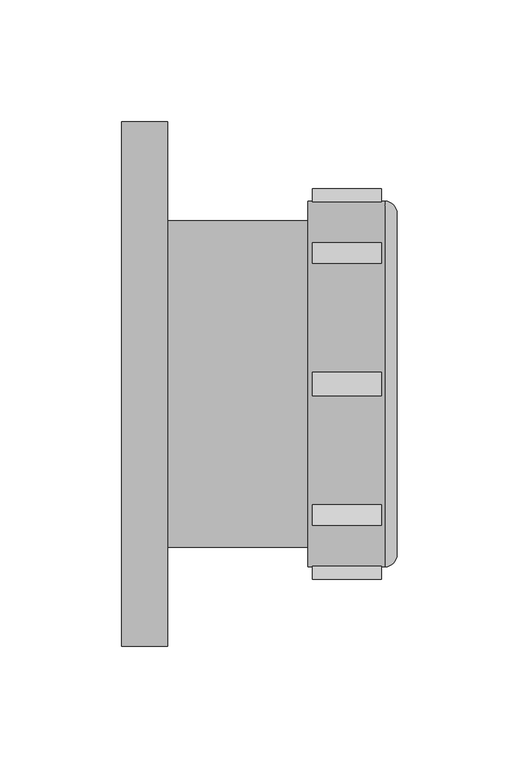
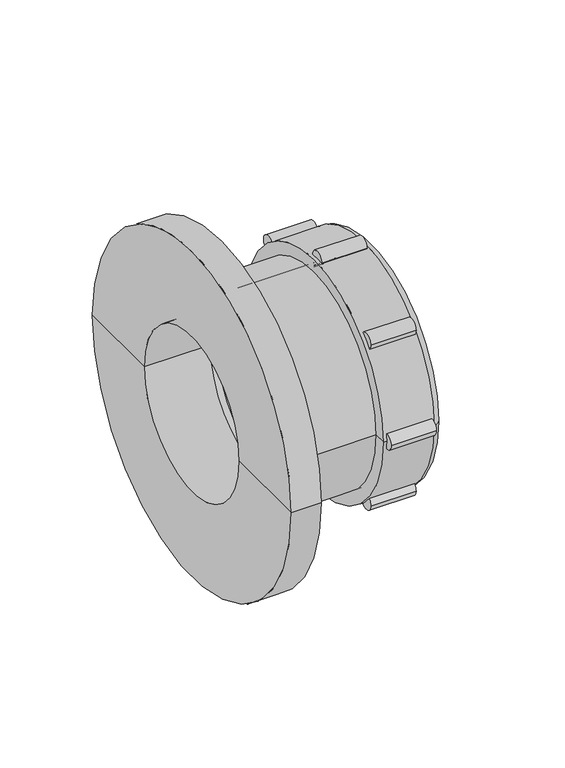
"""IFC4 building model written with IfcOpenShell, lengths in millimetres: pipe fitting geometry, Durapipe_PipeFitting_VulcatheneMechanical_Flange_(L364-L40) : W104 102mm."""

import ifcopenshell
import ifcopenshell.guid

model = None  # the IFC model being written
_history = None  # IfcOwnerHistory: only IFC2X3 demands one
_inside = {}  # id of a spatial element -> (the spatial element, [elements in it])
_under = {}  # id of a project, library or spatial element -> (it, [spatial elements below it])
_declared = {}  # id of a project -> (the project, [libraries it declares])
_typed = {}  # id of a type object -> (the type object, [elements of that type])
_made_of = {}  # id of a material, layer set ... -> (it, [elements and type objects made of it])


def new_model(schema):
    """Start an empty IFC model of exactly this schema.

    Asked for "IFC4X3", IfcOpenShell would pick the latest addendum, in which some entities
    have other attributes; the version numbers below select the first issue.
    IFC2X3 requires an IfcOwnerHistory on every rooted entity: one is made here for all.
    """
    global model, _history
    if schema == "IFC4X3":
        model = ifcopenshell.file(schema_version=(4, 3, 0, 0))
    else:
        model = ifcopenshell.file(schema=schema)
    _inside.clear()
    _under.clear()
    _declared.clear()
    _typed.clear()
    _made_of.clear()
    _history = None
    if model.schema == "IFC2X3":
        org = make("IfcOrganization", Name="unknown")
        user = make(
            "IfcPersonAndOrganization",
            ThePerson=make("IfcPerson", FamilyName="unknown"),
            TheOrganization=org,
        )
        app = make(
            "IfcApplication",
            ApplicationDeveloper=org,
            Version="unknown",
            ApplicationFullName="unknown",
            ApplicationIdentifier="unknown",
        )
        _history = make(
            "IfcOwnerHistory",
            OwningUser=user,
            OwningApplication=app,
            ChangeAction="ADDED",
            CreationDate=0,
        )
    return model


def make(cls, **values):
    """One entity of the class cls with the attributes given. An attribute that is None is left unset."""
    return model.create_entity(
        cls, **{name: value for name, value in values.items() if value is not None}
    )


def rooted(cls, **values):
    """An entity with a GlobalId (a new one), such as an element, a storey or a relation."""
    return make(cls, GlobalId=ifcopenshell.guid.new(), OwnerHistory=_history, **values)


def si_unit(unit_type, name, prefix=None):
    """IfcSIUnit, for example si_unit("LENGTHUNIT", "METRE", prefix="MILLI")."""
    return make("IfcSIUnit", UnitType=unit_type, Prefix=prefix, Name=name)


def assignment(units):
    """IfcUnitAssignment: the units of a project."""
    return None if units is None else make("IfcUnitAssignment", Units=units)


def point(xyz):
    """IfcCartesianPoint."""
    return None if xyz is None else make("IfcCartesianPoint", Coordinates=xyz)


def direction(xyz):
    """IfcDirection."""
    return None if xyz is None else make("IfcDirection", DirectionRatios=xyz)


def frame(location, z_axis=None, x_axis=None):
    """IfcAxis2Placement3D, a coordinate frame: its origin and axes. An axis left out is left unset."""
    return make(
        "IfcAxis2Placement3D",
        Location=point(location),
        Axis=direction(z_axis),
        RefDirection=direction(x_axis),
    )


def frame_2d(location, x_axis=None):
    """IfcAxis2Placement2D, a coordinate frame in the plane: its origin and x axis."""
    return make(
        "IfcAxis2Placement2D", Location=point(location), RefDirection=direction(x_axis)
    )


def origin():
    """The frame at (0, 0, 0) with its axes left unset."""
    return frame((0.0, 0.0, 0.0))


def place(relative_to, where):
    """IfcLocalPlacement: puts the frame where relative to a parent placement (None: the world)."""
    return make(
        "IfcLocalPlacement", PlacementRelTo=relative_to, RelativePlacement=where
    )


def context(
    kind, dimensions, precision=None, world=None, true_north=None, identifier=None
):
    """IfcGeometricRepresentationContext, for example the 3D "Model" context."""
    return make(
        "IfcGeometricRepresentationContext",
        ContextIdentifier=identifier,
        ContextType=kind,
        CoordinateSpaceDimension=dimensions,
        Precision=precision,
        WorldCoordinateSystem=world,
        TrueNorth=true_north,
    )


def project(units=None, contexts=None):
    """IfcProject with its units and contexts."""
    return rooted(
        "IfcProject",
        Name="project",
        RepresentationContexts=contexts,
        UnitsInContext=assignment(units),
    )


def spatial(cls, under=None, at=None, **own):
    """A site, building, storey or space (cls), placed at a placement, below another one or the project."""
    s = rooted(cls, ObjectPlacement=at, **own)
    if under is not None:
        _under.setdefault(under.id(), (under, []))[1].append(s)
    return s


def polyline(points):
    """IfcPolyline through the points."""
    return make("IfcPolyline", Points=[point(p) for p in points])


def circle_curve(where, radius):
    """IfcCircle in the frame where."""
    return make("IfcCircle", Position=where, Radius=radius)


def ellipse_curve(where, semi_axis1, semi_axis2):
    """IfcEllipse in the frame where."""
    return make(
        "IfcEllipse", Position=where, SemiAxis1=semi_axis1, SemiAxis2=semi_axis2
    )


def trimmed(basis, trim1, trim2, sense, master):
    """IfcTrimmedCurve: the piece of a basis curve between two trims."""
    return make(
        "IfcTrimmedCurve",
        BasisCurve=basis,
        Trim1=trim1,
        Trim2=trim2,
        SenseAgreement=sense,
        MasterRepresentation=master,
    )


def segment(curve, same_sense, transition):
    """IfcCompositeCurveSegment."""
    return make(
        "IfcCompositeCurveSegment",
        Transition=transition,
        SameSense=same_sense,
        ParentCurve=curve,
    )


def composite_curve(segments, self_intersect=None):
    """IfcCompositeCurve: segments joined end to end."""
    return make("IfcCompositeCurve", Segments=segments, SelfIntersect=self_intersect)


def outline(outer, holes=None, kind="AREA"):
    """IfcArbitraryClosedProfileDef: a profile drawn as a closed curve; with holes, ...WithVoids."""
    if holes is None:
        return make("IfcArbitraryClosedProfileDef", ProfileType=kind, OuterCurve=outer)
    return make(
        "IfcArbitraryProfileDefWithVoids",
        ProfileType=kind,
        OuterCurve=outer,
        InnerCurves=holes,
    )


def extrude(swept, where, along, depth):
    """IfcExtrudedAreaSolid: the profile swept, set in the frame where, extruded along a direction by depth."""
    return make(
        "IfcExtrudedAreaSolid",
        SweptArea=swept,
        Position=where,
        ExtrudedDirection=direction(along),
        Depth=depth,
    )


def shape(context_of_items, identifier, shape_type, items):
    """IfcShapeRepresentation: the items that make up one representation, for example the "Body"."""
    return make(
        "IfcShapeRepresentation",
        ContextOfItems=context_of_items,
        RepresentationIdentifier=identifier,
        RepresentationType=shape_type,
        Items=items,
    )


def source(mapping_origin, context_of_items, identifier, shape_type, items):
    """IfcRepresentationMap: a shape defined once, which mapped items show again and again."""
    return make(
        "IfcRepresentationMap",
        MappingOrigin=mapping_origin,
        MappedRepresentation=shape(context_of_items, identifier, shape_type, items),
    )


def transform(
    local_origin,
    x_axis=None,
    y_axis=None,
    z_axis=None,
    scale=None,
    scale2=None,
    scale3=None,
    uniform=True,
):
    """IfcCartesianTransformationOperator3D, or its non-uniform kind. x_axis, y_axis, z_axis: its Axis1, 2, 3."""
    if uniform:
        return make(
            "IfcCartesianTransformationOperator3D",
            Axis1=direction(x_axis),
            Axis2=direction(y_axis),
            LocalOrigin=point(local_origin),
            Scale=scale,
            Axis3=direction(z_axis),
        )
    return make(
        "IfcCartesianTransformationOperator3DnonUniform",
        Axis1=direction(x_axis),
        Axis2=direction(y_axis),
        LocalOrigin=point(local_origin),
        Scale=scale,
        Axis3=direction(z_axis),
        Scale2=scale2,
        Scale3=scale3,
    )


def mapped(mapping_source, mapping_target):
    """IfcMappedItem: shows the shape of a source again, moved by a transform."""
    return make(
        "IfcMappedItem", MappingSource=mapping_source, MappingTarget=mapping_target
    )


def made_of(thing, what):
    """Note that an element or type object is made of a material, layer set ...; save() writes the relation."""
    if what is not None:
        _made_of.setdefault(what.id(), (what, []))[1].append(thing)
    return thing


def element(
    cls,
    number,
    at=None,
    inside=None,
    cuts=None,
    type_object=None,
    material=None,
    context=None,
    identifier="Body",
    shape_type=None,
    held_by="IfcProductDefinitionShape",
    body=None,
    shapes=None,
    **own,
):
    """One element of the class cls, such as IfcWall. Its Tag is "e" and its number.

    at: its placement. inside: the storey or other place that contains it. cuts: it is an
    opening in that element (IfcRelVoidsElement). A single representation is given by context,
    identifier, shape_type and body (its items); several are given by shapes. held_by: the class
    of the entity that holds the representations. save() writes the other relations.
    """
    e = rooted(cls, Tag="e%d" % number, ObjectPlacement=at, **own)
    if body is not None:
        shapes = [shape(context, identifier, shape_type, body)]
    if shapes is not None:
        e.Representation = make(held_by, Representations=shapes)
    if inside is not None:
        _inside.setdefault(inside.id(), (inside, []))[1].append(e)
    if cuts is not None:
        rooted(
            "IfcRelVoidsElement", RelatingBuildingElement=cuts, RelatedOpeningElement=e
        )
    if type_object is not None:
        _typed.setdefault(type_object.id(), (type_object, []))[1].append(e)
    return made_of(e, material)


def aggregate(whole, parts):
    """IfcRelAggregates: a whole, such as a stair, and the parts it consists of."""
    return rooted("IfcRelAggregates", RelatingObject=whole, RelatedObjects=parts)


def save(model, path):
    """Write the relations noted so far, then the file.

    IfcRelAggregates (storeys below a building ...), IfcRelContainedInSpatialStructure (elements
    in a storey), IfcRelDefinesByType, IfcRelAssociatesMaterial and IfcRelDeclares: one each for
    every whole, place, type object, material and project.
    """
    for whole, parts in _under.values():
        aggregate(whole, parts)
    for where, things in _inside.values():
        rooted(
            "IfcRelContainedInSpatialStructure",
            RelatedElements=things,
            RelatingStructure=where,
        )
    for kind, things in _typed.values():
        rooted("IfcRelDefinesByType", RelatedObjects=things, RelatingType=kind)
    for what, things in _made_of.values():
        rooted("IfcRelAssociatesMaterial", RelatedObjects=things, RelatingMaterial=what)
    for by, libraries in _declared.values():
        rooted("IfcRelDeclares", RelatingContext=by, RelatedDefinitions=libraries)
    model.write(path)


def plane_surface(at):
    """IfcPlane: the flat surface through the origin of the frame at, square to its z axis."""
    return make("IfcPlane", Position=at)


def cylinder_surface(at, radius):
    """IfcCylindricalSurface: all points at the distance radius from the z axis of the frame at."""
    return make("IfcCylindricalSurface", Position=at, Radius=radius)


def revolved_surface(curve, axis_point, axis_direction):
    """IfcSurfaceOfRevolution: the curve turned about the line through axis_point along axis_direction."""
    return make(
        "IfcSurfaceOfRevolution",
        SweptCurve=make("IfcArbitraryOpenProfileDef", ProfileType="CURVE", Curve=curve),
        AxisPosition=make("IfcAxis1Placement", Location=point(axis_point), Axis=direction(axis_direction)),
    )


def advanced_brep(points, edges, surfaces, faces):
    """IfcAdvancedBrep: a solid bounded by faces that lie on surfaces and meet in shared edges.

    An edge is (start, end): straight between two places in points (the first is 0);
    or (start, end, curve); or (start, end, curve, False) where it runs against its curve.
    A face is (place in surfaces, loops), or (place, loops, False) where it looks against
    its surface's normal. A loop lists edges by number (the first is 1), with a minus sign
    where the edge is run from its end to its start. The first loop is the outer one.
    """
    corners = [point(p) for p in points]
    vertices = [make("IfcVertexPoint", VertexGeometry=c) for c in corners]
    made = []
    for start, end, *more in edges:
        made.append(
            make(
                "IfcEdgeCurve",
                EdgeStart=vertices[start],
                EdgeEnd=vertices[end],
                EdgeGeometry=more[0] if more else make("IfcPolyline", Points=[corners[start], corners[end]]),
                SameSense=more[1] if len(more) > 1 else True,
            )
        )
    hull = []
    for where, loops, *sense in faces:
        bounds = []
        for j, loop in enumerate(loops):
            ring = [make("IfcOrientedEdge", EdgeElement=made[abs(k) - 1], Orientation=k > 0) for k in loop]
            bounds.append(
                make(
                    "IfcFaceOuterBound" if j == 0 else "IfcFaceBound",
                    Bound=make("IfcEdgeLoop", EdgeList=ring),
                    Orientation=True,
                )
            )
        hull.append(make("IfcAdvancedFace", Bounds=bounds, FaceSurface=surfaces[where], SameSense=sense[0] if sense else True))
    return make("IfcAdvancedBrep", Outer=make("IfcClosedShell", CfsFaces=hull))


def pipe_fitting_40ecb241(model_context):
    return source(origin(), model_context, "Body", "SolidModel", [
        advanced_brep(
        [(51.0, -45.3962554, -45.3962554), (51.0, 45.3962554, 45.3962554), (51.0, 39.3858477, 39.3858477), (51.0, -39.3858477, -39.3858477), (29.2, -42.0021428, -42.0021428), (29.2, 42.0021428, 42.0021428), (-7.7, -42.0021428, -42.0021428), (-7.7, 42.0021428, 42.0021428), (-7.7, -40.3757972, -40.3757972), (-7.7, 40.3757972, 40.3757972), (38.3, -40.3757972, -40.3757972), (38.3, 40.3757972, 40.3757972), (38.3, -38.890873, -38.890873), (38.3, 38.890873, 38.890873), (42.8, -39.3858477, -39.3858477), (42.8, 39.3858477, 39.3858477), (42.8, 38.890873, 38.890873), (42.8, -38.890873, -38.890873)],
        [
            (0, 1, circle_curve(frame((51.0, 0.0, 0.0), z_axis=(1.0, 0.0, 0.0), x_axis=(0.0, 0.7071067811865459, 0.7071067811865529)), 64.2)),
            (1, 2),
            (2, 3, circle_curve(frame((51.0, 0.0, 0.0), z_axis=(-1.0, 0.0, 0.0), x_axis=(0.0, 0.7071067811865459, 0.7071067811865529)), 55.7)),
            (3, 0),
            (1, 0, circle_curve(frame((51.0, 0.0, 0.0), z_axis=(1.0, 0.0, 0.0), x_axis=(0.0, 0.7071067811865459, 0.7071067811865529)), 64.2)),
            (3, 2, circle_curve(frame((51.0, 0.0, 0.0), z_axis=(-1.0, 0.0, 0.0), x_axis=(0.0, 0.7071067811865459, 0.7071067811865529)), 55.7)),
            (0, 4),
            (4, 5, circle_curve(frame((29.2, 0.0, 0.0), z_axis=(1.0, 0.0, 0.0), x_axis=(0.0, 0.7071067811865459, 0.7071067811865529)), 59.4)),
            (5, 1),
            (5, 4, circle_curve(frame((29.2, 0.0, 0.0), z_axis=(1.0, 0.0, 0.0), x_axis=(0.0, 0.7071067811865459, 0.7071067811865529)), 59.4)),
            (6, 7, circle_curve(frame((-7.7, 0.0, 0.0), z_axis=(1.0, 0.0, 0.0), x_axis=(0.0, 0.7071067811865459, 0.7071067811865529)), 59.4)),
            (7, 5),
            (4, 6),
            (7, 6, circle_curve(frame((-7.7, 0.0, 0.0), z_axis=(1.0, 0.0, 0.0), x_axis=(0.0, 0.7071067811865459, 0.7071067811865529)), 59.4)),
            (6, 8),
            (8, 9, circle_curve(frame((-7.7, 0.0, 0.0), z_axis=(1.0, 0.0, 0.0), x_axis=(0.0, 0.7071067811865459, 0.7071067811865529)), 57.1)),
            (9, 7),
            (9, 8, circle_curve(frame((-7.7, 0.0, 0.0), z_axis=(1.0, 0.0, 0.0), x_axis=(0.0, 0.7071067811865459, 0.7071067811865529)), 57.1)),
            (8, 10),
            (10, 11, circle_curve(frame((38.3, 0.0, 0.0), z_axis=(1.0, 0.0, 0.0), x_axis=(0.0, 0.7071067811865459, 0.7071067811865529)), 57.1)),
            (11, 9),
            (11, 10, circle_curve(frame((38.3, 0.0, 0.0), z_axis=(1.0, 0.0, 0.0), x_axis=(0.0, 0.7071067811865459, 0.7071067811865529)), 57.1)),
            (10, 12),
            (12, 13, circle_curve(frame((38.3, 0.0, 0.0), z_axis=(1.0, 0.0, 0.0), x_axis=(0.0, 0.7071067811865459, 0.7071067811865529)), 55.0)),
            (13, 11),
            (13, 12, circle_curve(frame((38.3, 0.0, 0.0), z_axis=(1.0, 0.0, 0.0), x_axis=(0.0, 0.7071067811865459, 0.7071067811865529)), 55.0)),
            (14, 15, circle_curve(frame((42.8, 0.0, 0.0), z_axis=(1.0, 0.0, 0.0), x_axis=(0.0, 0.7071067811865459, 0.7071067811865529)), 55.7)),
            (15, 16),
            (16, 17, circle_curve(frame((42.8, 0.0, 0.0), z_axis=(-1.0, 0.0, 0.0), x_axis=(0.0, 0.7071067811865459, 0.7071067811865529)), 55.0)),
            (17, 14),
            (15, 14, circle_curve(frame((42.8, 0.0, 0.0), z_axis=(1.0, 0.0, 0.0), x_axis=(0.0, 0.7071067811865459, 0.7071067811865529)), 55.7)),
            (17, 16, circle_curve(frame((42.8, 0.0, 0.0), z_axis=(-1.0, 0.0, 0.0), x_axis=(0.0, 0.7071067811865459, 0.7071067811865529)), 55.0)),
            (2, 15),
            (14, 3),
            (12, 17),
            (16, 13),
        ],
        [
            plane_surface(frame((51.0, 0.0, 0.0), z_axis=(1.0, 0.0, 0.0), x_axis=(0.0, 0.707106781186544, 0.707106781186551))),
            revolved_surface(polyline([(51.0, 45.3962554, 45.3962554), (29.2, 42.0021428, 42.0021428)]), (56.0, 0.0, 0.0), (-1.0000000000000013, 0.0, 0.0)),
            cylinder_surface(frame((-9.7706557, 0.0, 0.0), z_axis=(-1.0000000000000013, 0.0, 0.0), x_axis=(0.0, 0.7071067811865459, 0.7071067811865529)), 59.4),
            plane_surface(frame((-7.7, 0.0, 0.0), z_axis=(-1.0, 0.0, 0.0), x_axis=(0.0, 0.707106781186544, 0.707106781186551))),
            revolved_surface(polyline([(-7.699999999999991, 40.37579720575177, 40.37579720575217), (38.300000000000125, 40.37579720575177, 40.37579720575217)]), (-11.192991, 0.0, 0.0), (-1.0000000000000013, 0.0, 0.0)),
            plane_surface(frame((38.3, 0.0, 0.0), z_axis=(-1.0, 0.0, 0.0), x_axis=(0.0, 0.707106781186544, 0.707106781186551))),
            plane_surface(frame((42.8, 0.0, 0.0), z_axis=(1.0, 0.0, 0.0), x_axis=(0.0, 0.707106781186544, 0.707106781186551))),
            revolved_surface(polyline([(42.79999999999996, 39.38584771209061, 39.385847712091), (50.999999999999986, 39.38584771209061, 39.385847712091)]), (56.0, 0.0, 0.0), (-1.0000000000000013, 0.0, 0.0)),
            revolved_surface(polyline([(38.299999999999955, 38.89087296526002, 38.89087296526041), (42.79999999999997, 38.89087296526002, 38.89087296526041)]), (52.5661924, 0.0, 0.0), (-1.0000000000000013, 0.0, 0.0)),
        ],
        [
            (0, [[1, 2, 3, 4]]),
            (0, [[-2, 5, -4, 6]]),
            (1, [[-1, 7, 8, 9]]),
            (1, [[-5, -9, 10, -7]]),
            (2, [[11, 12, -8, 13]]),
            (2, [[-12, 14, -13, -10]]),
            (3, [[-11, 15, 16, 17]]),
            (3, [[-14, -17, 18, -15]]),
            (4, [[19, 20, 21, -16]]),
            (4, [[-19, -18, -21, 22]]),
            (5, [[-20, 23, 24, 25]]),
            (5, [[-22, -25, 26, -23]]),
            (6, [[27, 28, 29, 30]]),
            (6, [[31, -30, 32, -28]]),
            (7, [[-3, 33, -27, 34]]),
            (7, [[-6, -34, -31, -33]]),
            (8, [[35, -29, 36, -24]]),
            (8, [[-35, -26, -36, -32]]),
        ],
    ),
        advanced_brep(
        [(20.0, -75.0, 0.0), (20.0, 75.0, 0.0), (51.5, 75.0, 0.0), (51.5, -75.0, 0.0), (20.0, -66.0, 0.0), (20.0, 66.0, 0.0), (56.5, -70.0, 0.0), (56.5, 70.0, 0.0), (56.5, 57.5, 0.0), (56.5, -57.5, 0.0), (51.0, -66.0, 0.0), (51.0, 66.0, 0.0), (51.0, -57.5, 0.0), (51.0, 57.5, 0.0)],
        [
            (0, 1, circle_curve(frame((20.0, 0.0, 0.0), z_axis=(1.0, 0.0, 0.0), x_axis=(0.0, 1.0000000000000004, 0.0)), 75.0)),
            (1, 2),
            (2, 3, circle_curve(frame((51.5, 0.0, 0.0), z_axis=(-1.0, 0.0, 0.0), x_axis=(0.0, 1.0000000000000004, 0.0)), 75.0)),
            (3, 0),
            (1, 0, circle_curve(frame((20.0, 0.0, 0.0), z_axis=(1.0, 0.0, 0.0), x_axis=(0.0, 1.0000000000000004, 0.0)), 75.0)),
            (3, 2, circle_curve(frame((51.5, 0.0, 0.0), z_axis=(-1.0, 0.0, 0.0), x_axis=(0.0, 1.0000000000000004, 0.0)), 75.0)),
            (4, 5, circle_curve(frame((20.0, 0.0, 0.0), z_axis=(1.0, 0.0, 0.0), x_axis=(0.0, 1.0000000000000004, 0.0)), 66.0)),
            (5, 1),
            (0, 4),
            (5, 4, circle_curve(frame((20.0, 0.0, 0.0), z_axis=(1.0, 0.0, 0.0), x_axis=(0.0, 1.0000000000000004, 0.0)), 66.0)),
            (6, 7, circle_curve(frame((56.5, 0.0, 0.0), z_axis=(1.0, 0.0, 0.0), x_axis=(0.0, 1.0000000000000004, 0.0)), 70.0)),
            (7, 8),
            (8, 9, circle_curve(frame((56.5, 0.0, 0.0), z_axis=(-1.0, 0.0, 0.0), x_axis=(0.0, 1.0000000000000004, 0.0)), 57.5)),
            (9, 6),
            (7, 6, circle_curve(frame((56.5, 0.0, 0.0), z_axis=(1.0, 0.0, 0.0), x_axis=(0.0, 1.0000000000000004, 0.0)), 70.0)),
            (9, 8, circle_curve(frame((56.5, 0.0, 0.0), z_axis=(-1.0, 0.0, 0.0), x_axis=(0.0, 1.0000000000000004, 0.0)), 57.5)),
            (2, 7, circle_curve(frame((51.5, 70.0, 0.0), z_axis=(0.0, 0.0, -1.0000000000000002), x_axis=(1.0000000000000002, 0.0, 0.0)), 5.0)),
            (6, 3, circle_curve(frame((51.5, -70.0, 0.0), z_axis=(0.0, 0.0, -1.0000000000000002), x_axis=(1.0000000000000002, 0.0, 0.0)), 5.0)),
            (10, 11, circle_curve(frame((51.0, 0.0, 0.0), z_axis=(1.0, 0.0, 0.0), x_axis=(0.0, 1.0000000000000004, 0.0)), 66.0)),
            (11, 5),
            (4, 10),
            (11, 10, circle_curve(frame((51.0, 0.0, 0.0), z_axis=(1.0, 0.0, 0.0), x_axis=(0.0, 1.0000000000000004, 0.0)), 66.0)),
            (12, 13, circle_curve(frame((51.0, 0.0, 0.0), z_axis=(1.0, 0.0, 0.0), x_axis=(0.0, 1.0000000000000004, 0.0)), 57.5)),
            (13, 11),
            (10, 12),
            (13, 12, circle_curve(frame((51.0, 0.0, 0.0), z_axis=(1.0, 0.0, 0.0), x_axis=(0.0, 1.0000000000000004, 0.0)), 57.5)),
            (8, 13),
            (12, 9),
        ],
        [
            cylinder_surface(frame((1617.3018184, 0.0, 0.0), z_axis=(-1.0000000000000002, 0.0, 0.0), x_axis=(0.0, 1.0000000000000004, 0.0)), 75.0),
            plane_surface(frame((20.0, 0.0, 0.0), z_axis=(-1.0, 0.0, 0.0), x_axis=(0.0, 1.0, 0.0))),
            plane_surface(frame((56.5, 0.0, 0.0), z_axis=(1.0, 0.0, 0.0), x_axis=(0.0, 1.0, 0.0))),
            revolved_surface(trimmed(ellipse_curve(frame((51.5, 70.0, 0.0), z_axis=(0.0, 0.0, 1.0000000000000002), x_axis=(1.0000000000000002, 0.0, 0.0)), 5.0, 5.0), [point((56.5, 70.0, 0.0))], [point((51.5, 75.0, 0.0))], True, "CARTESIAN"), (1617.3018184, 0.0, 0.0), (-1.0000000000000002, 0.0, 0.0)),
            revolved_surface(polyline([(19.99999999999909, 66.00000000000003, 0.0), (50.99999999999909, 66.00000000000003, 0.0)]), (1617.3018184, 0.0, 0.0), (-1.0000000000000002, 0.0, 0.0)),
            plane_surface(frame((51.0, 0.0, 0.0), z_axis=(-1.0, 0.0, 0.0), x_axis=(0.0, 1.0, 0.0))),
            revolved_surface(polyline([(50.99999999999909, 57.50000000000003, 0.0), (56.49999999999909, 57.50000000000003, 0.0)]), (1617.3018184, 0.0, 0.0), (-1.0000000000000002, 0.0, 0.0)),
        ],
        [
            (0, [[1, 2, 3, 4]]),
            (0, [[5, -4, 6, -2]]),
            (1, [[7, 8, -1, 9]]),
            (1, [[10, -9, -5, -8]]),
            (2, [[11, 12, 13, 14]]),
            (2, [[15, -14, 16, -12]]),
            (3, [[-3, 17, -11, 18]]),
            (3, [[-6, -18, -15, -17]]),
            (4, [[19, 20, -7, 21]]),
            (4, [[22, -21, -10, -20]]),
            (5, [[23, 24, -19, 25]]),
            (5, [[26, -25, -22, -24]]),
            (6, [[-13, 27, -23, 28]]),
            (6, [[-16, -28, -26, -27]]),
        ],
    ),
        extrude(outline(composite_curve([segment(trimmed(circle_curve(frame_2d((0.0, 75.0)), 5.0), [point((-5.0, 75.0))], [point((5.0, 75.0))], False, "CARTESIAN"), True, "CONTINUOUS"), segment(trimmed(circle_curve(frame_2d((0.0, 75.0)), 5.0), [point((5.0, 75.0))], [point((-5.0, 75.0))], False, "CARTESIAN"), True, "CONTINUOUS")], self_intersect=False)), frame((21.8, 0.0, 0.0), z_axis=(1.0, 0.0, 0.0), x_axis=(0.0, 1.0, 0.0)), (0.0, 0.0, 1.0), 28.2),
        extrude(outline(composite_curve([segment(trimmed(circle_curve(frame_2d((53.0330086, 53.0330086)), 5.0), [point((48.0330086, 53.0330086))], [point((58.0330086, 53.0330086))], False, "CARTESIAN"), True, "CONTINUOUS"), segment(trimmed(circle_curve(frame_2d((53.0330086, 53.0330086)), 5.0), [point((58.0330086, 53.0330086))], [point((48.0330086, 53.0330086))], False, "CARTESIAN"), True, "CONTINUOUS")], self_intersect=False)), frame((21.8, 0.0, 0.0), z_axis=(1.0, 0.0, 0.0), x_axis=(0.0, 1.0, 0.0)), (0.0, 0.0, 1.0), 28.2),
        extrude(outline(composite_curve([segment(trimmed(circle_curve(frame_2d((75.0, 0.0)), 5.0), [point((70.0, 0.0))], [point((80.0, 0.0))], False, "CARTESIAN"), True, "CONTINUOUS"), segment(trimmed(circle_curve(frame_2d((75.0, 0.0)), 5.0), [point((80.0, 0.0))], [point((70.0, 0.0))], False, "CARTESIAN"), True, "CONTINUOUS")], self_intersect=False)), frame((21.8, 0.0, 0.0), z_axis=(1.0, 0.0, 0.0), x_axis=(0.0, 1.0, 0.0)), (0.0, 0.0, 1.0), 28.2),
        extrude(outline(composite_curve([segment(trimmed(circle_curve(frame_2d((53.0330086, -53.0330086)), 5.0), [point((48.0330086, -53.0330086))], [point((58.0330086, -53.0330086))], False, "CARTESIAN"), True, "CONTINUOUS"), segment(trimmed(circle_curve(frame_2d((53.0330086, -53.0330086)), 5.0), [point((58.0330086, -53.0330086))], [point((48.0330086, -53.0330086))], False, "CARTESIAN"), True, "CONTINUOUS")], self_intersect=False)), frame((21.8, 0.0, 0.0), z_axis=(1.0, 0.0, 0.0), x_axis=(0.0, 1.0, 0.0)), (0.0, 0.0, 1.0), 28.2),
        extrude(outline(composite_curve([segment(trimmed(circle_curve(frame_2d((0.0, -75.0)), 5.0), [point((-5.0, -75.0))], [point((5.0, -75.0))], False, "CARTESIAN"), True, "CONTINUOUS"), segment(trimmed(circle_curve(frame_2d((0.0, -75.0)), 5.0), [point((5.0, -75.0))], [point((-5.0, -75.0))], False, "CARTESIAN"), True, "CONTINUOUS")], self_intersect=False)), frame((21.8, 0.0, 0.0), z_axis=(1.0, 0.0, 0.0), x_axis=(0.0, 1.0, 0.0)), (0.0, 0.0, 1.0), 28.2),
        extrude(outline(composite_curve([segment(trimmed(circle_curve(frame_2d((-53.0330086, -53.0330086)), 5.0), [point((-58.0330086, -53.0330086))], [point((-48.0330086, -53.0330086))], False, "CARTESIAN"), True, "CONTINUOUS"), segment(trimmed(circle_curve(frame_2d((-53.0330086, -53.0330086)), 5.0), [point((-48.0330086, -53.0330086))], [point((-58.0330086, -53.0330086))], False, "CARTESIAN"), True, "CONTINUOUS")], self_intersect=False)), frame((21.8, 0.0, 0.0), z_axis=(1.0, 0.0, 0.0), x_axis=(0.0, 1.0, 0.0)), (0.0, 0.0, 1.0), 28.2),
        extrude(outline(composite_curve([segment(trimmed(circle_curve(frame_2d((-75.0, 0.0)), 5.0), [point((-80.0, 0.0))], [point((-70.0, 0.0))], False, "CARTESIAN"), True, "CONTINUOUS"), segment(trimmed(circle_curve(frame_2d((-75.0, 0.0)), 5.0), [point((-70.0, 0.0))], [point((-80.0, 0.0))], False, "CARTESIAN"), True, "CONTINUOUS")], self_intersect=False)), frame((21.8, 0.0, 0.0), z_axis=(1.0, 0.0, 0.0), x_axis=(0.0, 1.0, 0.0)), (0.0, 0.0, 1.0), 28.2),
        extrude(outline(composite_curve([segment(trimmed(circle_curve(frame_2d((-53.0330086, 53.0330086)), 5.0), [point((-58.0330086, 53.0330086))], [point((-48.0330086, 53.0330086))], False, "CARTESIAN"), True, "CONTINUOUS"), segment(trimmed(circle_curve(frame_2d((-53.0330086, 53.0330086)), 5.0), [point((-48.0330086, 53.0330086))], [point((-58.0330086, 53.0330086))], False, "CARTESIAN"), True, "CONTINUOUS")], self_intersect=False)), frame((21.8, 0.0, 0.0), z_axis=(1.0, 0.0, 0.0), x_axis=(0.0, 1.0, 0.0)), (0.0, 0.0, 1.0), 28.2),
        advanced_brep(
        [(-37.7, -67.0, 0.0), (-37.7, 67.0, 0.0), (51.0, 67.0, 0.0), (51.0, -67.0, 0.0), (-37.7, -107.5, 0.0), (-37.7, 107.5, 0.0), (-56.5, -107.5, 0.0), (-56.5, 107.5, 0.0), (-56.5, -51.4, 0.0), (-56.5, 51.4, 0.0), (51.0, 60.75, 0.0), (51.0, -60.75, 0.0), (-15.5, -51.4, 0.0), (-15.5, 51.4, 0.0), (-15.5, 60.75, 0.0), (-15.5, -60.75, 0.0)],
        [
            (0, 1, circle_curve(frame((-37.7, 0.0, 0.0), z_axis=(1.0, 0.0, 0.0), x_axis=(0.0, 1.0, 0.0)), 67.0)),
            (1, 2),
            (2, 3, circle_curve(frame((51.0, 0.0, 0.0), z_axis=(-1.0, 0.0, 0.0), x_axis=(0.0, 1.0, 0.0)), 67.0)),
            (3, 0),
            (1, 0, circle_curve(frame((-37.7, 0.0, 0.0), z_axis=(1.0, 0.0, 0.0), x_axis=(0.0, 1.0, 0.0)), 67.0)),
            (3, 2, circle_curve(frame((51.0, 0.0, 0.0), z_axis=(-1.0, 0.0, 0.0), x_axis=(0.0, 1.0, 0.0)), 67.0)),
            (0, 4),
            (4, 5, circle_curve(frame((-37.7, 0.0, 0.0), z_axis=(1.0, 0.0, 0.0), x_axis=(0.0, 1.0, 0.0)), 107.5)),
            (5, 1),
            (5, 4, circle_curve(frame((-37.7, 0.0, 0.0), z_axis=(1.0, 0.0, 0.0), x_axis=(0.0, 1.0, 0.0)), 107.5)),
            (4, 6),
            (6, 7, circle_curve(frame((-56.5, 0.0, 0.0), z_axis=(1.0, 0.0, 0.0), x_axis=(0.0, 1.0, 0.0)), 107.5)),
            (7, 5),
            (7, 6, circle_curve(frame((-56.5, 0.0, 0.0), z_axis=(1.0, 0.0, 0.0), x_axis=(0.0, 1.0, 0.0)), 107.5)),
            (6, 8),
            (8, 9, circle_curve(frame((-56.5, 0.0, 0.0), z_axis=(1.0, 0.0, 0.0), x_axis=(0.0, 1.0, 0.0)), 51.4)),
            (9, 7),
            (9, 8, circle_curve(frame((-56.5, 0.0, 0.0), z_axis=(1.0, 0.0, 0.0), x_axis=(0.0, 1.0, 0.0)), 51.4)),
            (2, 10),
            (10, 11, circle_curve(frame((51.0, 0.0, 0.0), z_axis=(-1.0, 0.0, 0.0), x_axis=(0.0, 1.0, 0.0)), 60.75)),
            (11, 3),
            (11, 10, circle_curve(frame((51.0, 0.0, 0.0), z_axis=(-1.0, 0.0, 0.0), x_axis=(0.0, 1.0, 0.0)), 60.75)),
            (8, 12),
            (12, 13, circle_curve(frame((-15.5, 0.0, 0.0), z_axis=(1.0, 0.0, 0.0), x_axis=(0.0, 1.0, 0.0)), 51.4)),
            (13, 9),
            (13, 12, circle_curve(frame((-15.5, 0.0, 0.0), z_axis=(1.0, 0.0, 0.0), x_axis=(0.0, 1.0, 0.0)), 51.4)),
            (14, 15, circle_curve(frame((-15.5, 0.0, 0.0), z_axis=(-1.0, 0.0, 0.0), x_axis=(0.0, 1.0, 0.0)), 60.75)),
            (15, 11),
            (10, 14),
            (15, 14, circle_curve(frame((-15.5, 0.0, 0.0), z_axis=(-1.0, 0.0, 0.0), x_axis=(0.0, 1.0, 0.0)), 60.75)),
            (14, 13),
            (12, 15),
        ],
        [
            cylinder_surface(frame((-81.5, 0.0, 0.0), z_axis=(-1.0, 0.0, 0.0), x_axis=(0.0, 1.0, 0.0)), 67.0),
            plane_surface(frame((-37.7, 0.0, 0.0), z_axis=(1.0, 0.0, 0.0), x_axis=(0.0, 1.0, 0.0))),
            cylinder_surface(frame((-81.5, 0.0, 0.0), z_axis=(-1.0, 0.0, 0.0), x_axis=(0.0, 1.0, 0.0)), 107.5),
            plane_surface(frame((-56.5, 0.0, 0.0), z_axis=(-1.0, 0.0, 0.0), x_axis=(0.0, 1.0, 0.0))),
            plane_surface(frame((51.0, 0.0, 0.0), z_axis=(1.0, 0.0, 0.0), x_axis=(0.0, 1.0, 0.0))),
            revolved_surface(polyline([(-56.5, 51.4, 0.0), (-15.5, 51.4, 0.0)]), (-81.5, 0.0, 0.0), (-1.0, 0.0, 0.0)),
            revolved_surface(polyline([(-15.5, 60.75, 0.0), (51.0, 60.75, 0.0)]), (-71.5, 0.0, 0.0), (-1.0, 0.0, 0.0)),
            plane_surface(frame((-15.5, 0.0, 0.0), z_axis=(1.0, 0.0, 0.0), x_axis=(0.0, 1.0, 0.0))),
        ],
        [
            (0, [[1, 2, 3, 4]]),
            (0, [[-2, 5, -4, 6]]),
            (1, [[-1, 7, 8, 9]]),
            (1, [[-5, -9, 10, -7]]),
            (2, [[-8, 11, 12, 13]]),
            (2, [[-10, -13, 14, -11]]),
            (3, [[-12, 15, 16, 17]]),
            (3, [[-14, -17, 18, -15]]),
            (4, [[-3, 19, 20, 21]]),
            (4, [[-6, -21, 22, -19]]),
            (5, [[-16, 23, 24, 25]]),
            (5, [[-18, -25, 26, -23]]),
            (6, [[27, 28, -20, 29]]),
            (6, [[30, -29, -22, -28]]),
            (7, [[-27, 31, -24, 32]]),
            (7, [[-30, -32, -26, -31]]),
        ],
    ),
    ])


if __name__ == "__main__":
    model = new_model("IFC4")
    model_context = context("Model", 3, world=origin())
    ifc_project = project(units=[si_unit("LENGTHUNIT", "METRE", prefix="MILLI")], contexts=[model_context])
    site = spatial("IfcSite", under=ifc_project)
    building = spatial("IfcBuilding", under=site)
    placement = place(None, origin())
    pipe_fitting_shape = pipe_fitting_40ecb241(model_context)
    element("IfcPipeFitting", 1, ObjectType="Durapipe_PipeFitting_VulcatheneMechanical_Flange_(L364-L40) : W104 102mm", at=placement, inside=building, context=model_context, shape_type="MappedRepresentation", body=[
        mapped(pipe_fitting_shape, transform((0.0, 0.0, 0.0), x_axis=(1.0, 0.0, 0.0), y_axis=(0.0, 1.0, 0.0), z_axis=(0.0, 0.0, 1.0))),
    ])
    save(model, "model.ifc")
